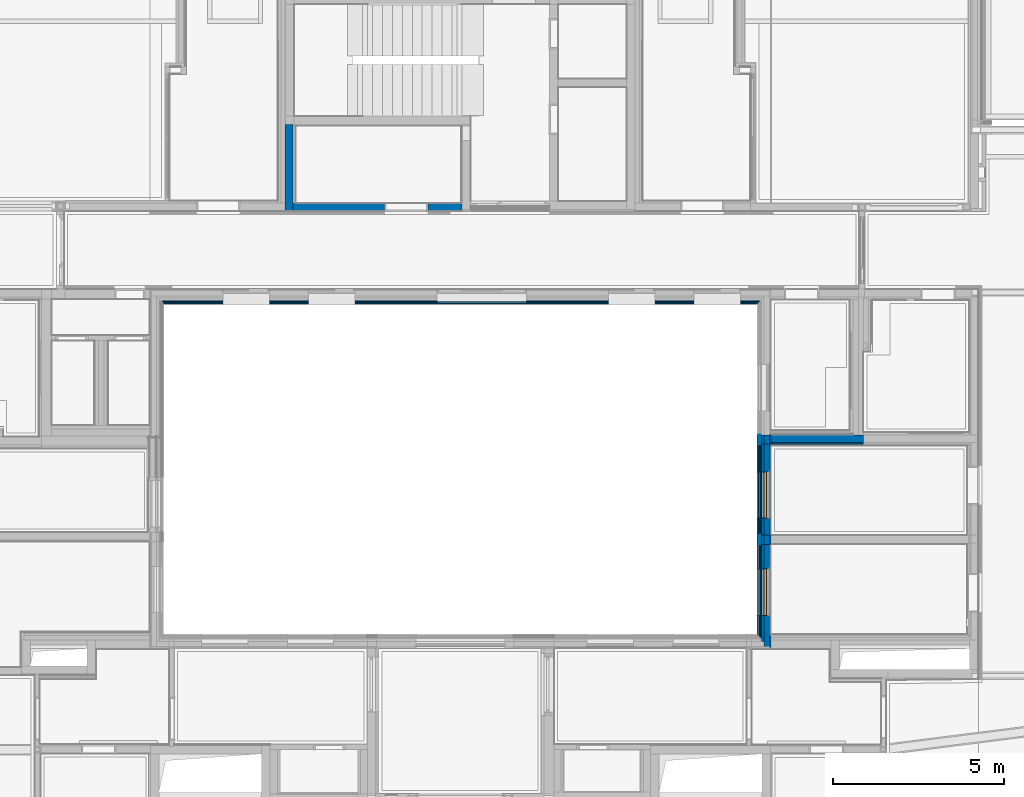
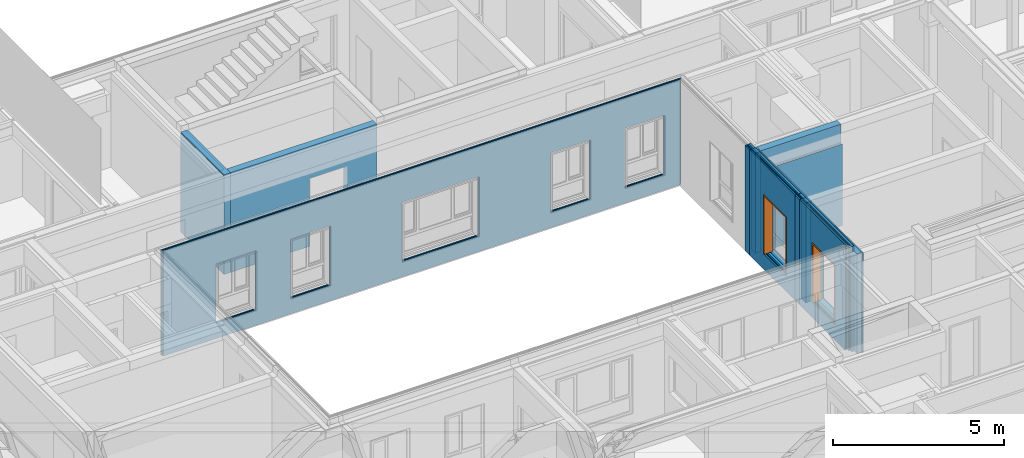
# One storey, part 32 of 222: 35 walls, 2 proxies, 29 openings.
"""IFC4 building model written with IfcOpenShell, lengths in metres."""

from ifc_helpers import new_model, entity, si_unit, converted_unit, derived_unit, frame, frame_2d, origin, origin_with_axes, place, context, subcontext, project, spatial, polyline, rectangle, outline, extrude, clip, bounded_halfspace, faceted_brep, material, element, fill, save


model = new_model("IFC4")

# Units and contexts
model_context = context("Model", 3, precision=1e-05, world=origin())
body_context = subcontext(model_context, "Body", "Model", "MODEL_VIEW")
ifc_project = project(units=[si_unit("LENGTHUNIT", "METRE"), si_unit("AREAUNIT", "SQUARE_METRE"), si_unit("VOLUMEUNIT", "CUBIC_METRE"), si_unit("MASSUNIT", "GRAM", prefix="KILO"), converted_unit("PLANEANGLEUNIT", "DEGREE", entity("IfcPlaneAngleMeasure", 0.0174532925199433), si_unit("PLANEANGLEUNIT", "RADIAN"), dimensions=[0, 0, 0, 0, 0, 0, 0]), derived_unit("THERMALTRANSMITTANCEUNIT", [(si_unit("POWERUNIT", "WATT"), 1), (si_unit("THERMODYNAMICTEMPERATUREUNIT", "KELVIN"), -1), (si_unit("LENGTHUNIT", "METRE"), -2)]), derived_unit("VOLUMETRICFLOWRATEUNIT", [(si_unit("LENGTHUNIT", "METRE"), 3), (converted_unit("TIMEUNIT", "hour", entity("IfcTimeMeasure", 3600.0), si_unit("TIMEUNIT", "SECOND"), dimensions=[0, 0, 1, 0, 0, 0, 0]), -1), (si_unit("LENGTHUNIT", "METRE"), -1)])], contexts=[model_context])

# Site, building, storey
site_placement = place(None, origin())
site = spatial("IfcSite", under=ifc_project, at=site_placement, Name="Psychiatrie Neubau Wunstorf", CompositionType="ELEMENT")
building_placement = place(site_placement, origin())
building = spatial("IfcBuilding", under=site, at=building_placement, Name="Neubau H2 Stationsgebäude", CompositionType="ELEMENT")
storey_placement = place(building_placement, frame((0.0, 0.0, 3.6)))
storey = spatial("IfcBuildingStorey", under=building, at=storey_placement, Name="H2 Ebene +1", CompositionType="ELEMENT", Elevation=3.6)

# Wall, opening
ifc_material_1 = material(Name="WA-LB")
wall_1_placement = place(storey_placement, frame((62.061000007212, 10.1139996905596, 0.0), z_axis=(0.0, 0.0, 1.0), x_axis=(2.4064709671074e-15, 1.0, 0.0)))
wall_1 = element("IfcWall", 1, at=wall_1_placement, inside=storey, material=ifc_material_1, context=body_context, shape_type="SweptSolid", body=[
    extrude(rectangle(XDim=3.02349694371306, YDim=0.036, at=frame_2d((1.51174847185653, 0.018), x_axis=(1.0, 0.0))), origin_with_axes(), (0.0, 0.0, 1.0), 3.55),
])
opening_1_placement = place(wall_1_placement, frame((2.30599694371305, 0.0359999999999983, 0.55), z_axis=(0.0, -1.0, 0.0), x_axis=(0.0, 0.0, 1.0)))
element("IfcOpeningElement", 2, at=opening_1_placement, cuts=wall_1, Name="Fensteröffnung", ObjectType="Opening", context=body_context, shape_type="SweptSolid", body=[
    extrude(outline(polyline([(2.115, 1.35), (2.115, 0.0), (0.0, 0.0), (0.0, 1.35), (2.115, 1.35)])), origin_with_axes(), (0.0, 0.0, 1.0), 0.036),
])

ifc_material_2 = material(Name="WA-DL")
wall_2_placement = place(storey_placement, frame((62.025000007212, 10.1499996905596, 0.0), z_axis=(0.0, 0.0, 1.0), x_axis=(2.43546947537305e-15, 1.0, 0.0)))
wall_2 = element("IfcWall", 3, at=wall_2_placement, inside=storey, material=ifc_material_2, context=body_context, shape_type="SweptSolid", body=[
    extrude(rectangle(XDim=2.98749694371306, YDim=0.16, at=frame_2d((1.49374847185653, 0.08), x_axis=(1.0, 0.0))), origin_with_axes(), (0.0, 0.0, 1.0), 3.55),
])
opening_2_placement = place(wall_2_placement, frame((2.26999694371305, 0.159999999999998, 0.55), z_axis=(2.8421709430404e-15, -1.0, 0.0), x_axis=(0.0, 0.0, 1.0)))
element("IfcOpeningElement", 4, at=opening_2_placement, cuts=wall_2, Name="Fensteröffnung", ObjectType="Opening", context=body_context, shape_type="SweptSolid", body=[
    extrude(outline(polyline([(2.115, 1.35), (2.115, 0.0), (0.0, 0.0), (0.0, 1.35), (2.115, 1.35)])), origin_with_axes(), (0.0, 0.0, 1.0), 0.16),
])

ifc_material_3 = material(Name="WA-DL")
wall_3_placement = place(storey_placement, frame((61.865000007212, 10.3099996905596, 0.0), z_axis=(0.0, 0.0, 1.0), x_axis=(2.5732857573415e-15, 1.0, 0.0)))
wall_3 = element("IfcWall", 5, at=wall_3_placement, inside=storey, material=ifc_material_3, context=body_context, shape_type="SweptSolid", body=[
    extrude(rectangle(XDim=2.82749694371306, YDim=0.08, at=frame_2d((1.41374847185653, 0.04), x_axis=(1.0, 0.0))), origin_with_axes(), (0.0, 0.0, 1.0), 3.75),
])
opening_3_placement = place(wall_3_placement, frame((2.10999694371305, 0.0799999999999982, 0.55), z_axis=(0.0, -1.0, 0.0), x_axis=(0.0, 0.0, 1.0)))
element("IfcOpeningElement", 6, at=opening_3_placement, cuts=wall_3, Name="Fensteröffnung", ObjectType="Opening", context=body_context, shape_type="SweptSolid", body=[
    extrude(outline(polyline([(2.115, 1.35), (2.115, 0.0), (0.0, 0.0), (0.0, 1.35), (2.115, 1.35)])), origin_with_axes(), (0.0, 0.0, 1.0), 0.08),
])

ifc_material_4 = material(Name="WA-LB")
wall_4_placement = place(storey_placement, frame((61.785000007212, 10.3899996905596, 0.0), z_axis=(0.0, 0.0, 1.0), x_axis=(2.64821317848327e-15, 1.0, 0.0)))
wall_4 = element("IfcWall", 7, at=wall_4_placement, inside=storey, material=ifc_material_4, context=body_context, shape_type="SweptSolid", body=[
    extrude(rectangle(XDim=2.74749694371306, YDim=0.036, at=frame_2d((1.37374847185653, 0.018), x_axis=(1.0, 0.0))), origin_with_axes(), (0.0, 0.0, 1.0), 3.75),
])
opening_4_placement = place(wall_4_placement, frame((2.02999694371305, 0.0359999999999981, 0.55), z_axis=(0.0, -1.0, 0.0), x_axis=(0.0, 0.0, 1.0)))
element("IfcOpeningElement", 8, at=opening_4_placement, cuts=wall_4, Name="Fensteröffnung", ObjectType="Opening", context=body_context, shape_type="SweptSolid", body=[
    extrude(outline(polyline([(2.115, 1.35), (2.115, 0.0), (0.0, 0.0), (0.0, 1.35), (2.115, 1.35)])), origin_with_axes(), (0.0, 0.0, 1.0), 0.036),
])

ifc_material_5 = material(Name="WA-KL")
wall_5_placement = place(storey_placement, frame((61.749000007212, 10.4259996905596, 0.0), z_axis=(0.0, 0.0, 1.0), x_axis=(2.68337297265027e-15, 1.0, 0.0)))
wall_5 = element("IfcWall", 9, at=wall_5_placement, inside=storey, material=ifc_material_5, context=body_context, shape_type="SweptSolid", body=[
    extrude(rectangle(XDim=2.71149694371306, YDim=0.024, at=frame_2d((1.35574847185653, 0.012), x_axis=(1.0, 0.0))), origin_with_axes(), (0.0, 0.0, 1.0), 3.75),
])
opening_5_placement = place(wall_5_placement, frame((1.99399694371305, 0.0239999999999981, 0.55), z_axis=(0.0, -1.0, 0.0), x_axis=(0.0, 0.0, 1.0)))
element("IfcOpeningElement", 10, at=opening_5_placement, cuts=wall_5, Name="Fensteröffnung", ObjectType="Opening", context=body_context, shape_type="SweptSolid", body=[
    extrude(outline(polyline([(2.115, 1.35), (2.115, 0.0), (0.0, 0.0), (0.0, 1.35), (2.115, 1.35)])), origin_with_axes(), (0.0, 0.0, 1.0), 0.024),
])

# Wall, opening, proxy
ifc_material_6 = material(Name="WA-HS")
wall_6_placement = place(storey_placement, frame((61.701000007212, 10.4739996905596, 0.0), z_axis=(0.0, 0.0, 1.0), x_axis=(2.73173116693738e-15, 1.0, 0.0)))
wall_6 = element("IfcWall", 11, at=wall_6_placement, inside=storey, material=ifc_material_6, context=body_context, shape_type="SweptSolid", body=[
    extrude(rectangle(XDim=2.66349694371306, YDim=0.042, at=frame_2d((1.33174847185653, 0.021), x_axis=(1.0, 0.0))), origin_with_axes(), (0.0, 0.0, 1.0), 3.75),
])
opening_6_placement = place(wall_6_placement, frame((1.94599694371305, 0.041999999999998, 0.55), z_axis=(5.41365893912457e-15, -1.0, 0.0), x_axis=(0.0, 0.0, 1.0)))
opening_6 = element("IfcOpeningElement", 12, at=opening_6_placement, cuts=wall_6, Name="Fensteröffnung", ObjectType="Opening", context=body_context, shape_type="SweptSolid", body=[
    extrude(outline(polyline([(2.115, 1.35), (2.115, 0.0), (0.0, 0.0), (0.0, 1.35), (2.115, 1.35)])), origin_with_axes(), (0.0, 0.0, 1.0), 0.042),
])
ifc_material_7 = material(Name="WA-HS")
proxy_1_placement = place(opening_6_placement, frame((0.0, 1.35, 0.0)))
proxy_1 = element("IfcBuildingElementProxy", 13, at=proxy_1_placement, inside=storey, material=ifc_material_7, context=body_context, shape_type="Brep", body=[
    faceted_brep([(0.0, -1.35, 0.0), (0.0, -1.35, 0.275000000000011), (2.115, -1.35, 0.275000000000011), (2.115, -1.35, 0.0), (0.0, -1.3, 0.275000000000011), (0.0, -1.3, 0.0), (2.065, -1.3, 0.0), (2.065, -1.3, 0.275000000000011), (2.115, 0.0, 0.275), (2.115, 0.0, 0.0), (0.0, 0.0, 0.0), (0.0, -0.05, 0.0), (2.065, -0.05, 0.0), (2.065, -0.0499999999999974, 0.275), (0.0, -0.0499999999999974, 0.275), (0.0, 0.0, 0.275)], [[[0, 1, 2, 3]], [[4, 5, 6, 7]], [[0, 5, 4, 1]], [[3, 2, 8, 9]], [[6, 5, 0, 3, 9, 10, 11, 12]], [[13, 14, 15, 8, 2, 1, 4, 7]], [[7, 6, 12, 13]], [[11, 14, 13, 12]], [[15, 10, 9, 8]], [[11, 10, 15, 14]]], orient=[[False], [False], [False], [False], [False], [False], [False], [False], [False], [False]]),
])
fill(opening_6, proxy_1)

# Wall, opening
ifc_material_8 = material(Name="WA-LB")
wall_7_placement = place(storey_placement, frame((62.0610000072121, 13.4094966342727, 0.0), z_axis=(0.0, 0.0, 1.0), x_axis=(0.0, 1.0, 0.0)))
wall_7 = element("IfcWall", 14, at=wall_7_placement, inside=storey, material=ifc_material_8, context=body_context, shape_type="SweptSolid", body=[
    extrude(rectangle(XDim=2.65450336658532, YDim=0.036, at=frame_2d((1.32725168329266, 0.018), x_axis=(1.0, 0.0))), origin_with_axes(), (0.0, 0.0, 1.0), 3.55),
])
opening_7_placement = place(wall_7_placement, frame((1.84550336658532, 0.036, 0.55), z_axis=(0.0, -1.0, 0.0), x_axis=(0.0, 0.0, 1.0)))
element("IfcOpeningElement", 15, at=opening_7_placement, cuts=wall_7, Name="Fensteröffnung", ObjectType="Opening", context=body_context, shape_type="SweptSolid", body=[
    extrude(outline(polyline([(2.115, 1.35), (2.115, 0.0), (0.0, 0.0), (0.0, 1.35), (2.115, 1.35)])), origin_with_axes(), (0.0, 0.0, 1.0), 0.036),
])

ifc_material_9 = material(Name="WA-DL")
wall_8_placement = place(storey_placement, frame((62.0250000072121, 13.4094966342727, 0.0), z_axis=(0.0, 0.0, 1.0), x_axis=(0.0, 1.0, 0.0)))
wall_8 = element("IfcWall", 16, at=wall_8_placement, inside=storey, material=ifc_material_9, context=body_context, shape_type="SweptSolid", body=[
    extrude(rectangle(XDim=2.65450336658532, YDim=0.16, at=frame_2d((1.32725168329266, 0.08), x_axis=(1.0, 0.0))), origin_with_axes(), (0.0, 0.0, 1.0), 3.55),
])
opening_8_placement = place(wall_8_placement, frame((1.84550336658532, 0.16, 0.55), z_axis=(0.0, -1.0, 0.0), x_axis=(0.0, 0.0, 1.0)))
element("IfcOpeningElement", 17, at=opening_8_placement, cuts=wall_8, Name="Fensteröffnung", ObjectType="Opening", context=body_context, shape_type="SweptSolid", body=[
    extrude(outline(polyline([(2.115, 1.35), (2.115, 0.0), (0.0, 0.0), (0.0, 1.35), (2.115, 1.35)])), origin_with_axes(), (0.0, 0.0, 1.0), 0.16),
])

ifc_material_10 = material(Name="WA-DL")
wall_9_placement = place(storey_placement, frame((61.8650000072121, 13.4094966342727, 0.0), z_axis=(0.0, 0.0, 1.0), x_axis=(0.0, 1.0, 0.0)))
wall_9 = element("IfcWall", 18, at=wall_9_placement, inside=storey, material=ifc_material_10, context=body_context, shape_type="SweptSolid", body=[
    extrude(rectangle(XDim=2.65450336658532, YDim=0.08, at=frame_2d((1.32725168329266, 0.04), x_axis=(1.0, 0.0))), origin_with_axes(), (0.0, 0.0, 1.0), 3.75),
])
opening_9_placement = place(wall_9_placement, frame((1.84550336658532, 0.08, 0.55), z_axis=(0.0, -1.0, 0.0), x_axis=(0.0, 0.0, 1.0)))
element("IfcOpeningElement", 19, at=opening_9_placement, cuts=wall_9, Name="Fensteröffnung", ObjectType="Opening", context=body_context, shape_type="SweptSolid", body=[
    extrude(outline(polyline([(2.115, 1.35), (2.115, 0.0), (0.0, 0.0), (0.0, 1.35), (2.115, 1.35)])), origin_with_axes(), (0.0, 0.0, 1.0), 0.08),
])

ifc_material_11 = material(Name="WA-LB")
wall_10_placement = place(storey_placement, frame((61.7850000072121, 13.4094966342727, 0.0), z_axis=(0.0, 0.0, 1.0), x_axis=(0.0, 1.0, 0.0)))
wall_10 = element("IfcWall", 20, at=wall_10_placement, inside=storey, material=ifc_material_11, context=body_context, shape_type="SweptSolid", body=[
    extrude(rectangle(XDim=2.65450336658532, YDim=0.036, at=frame_2d((1.32725168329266, 0.018), x_axis=(1.0, 0.0))), origin_with_axes(), (0.0, 0.0, 1.0), 3.75),
])
opening_10_placement = place(wall_10_placement, frame((1.84550336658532, 0.036, 0.55), z_axis=(0.0, -1.0, 0.0), x_axis=(0.0, 0.0, 1.0)))
element("IfcOpeningElement", 21, at=opening_10_placement, cuts=wall_10, Name="Fensteröffnung", ObjectType="Opening", context=body_context, shape_type="SweptSolid", body=[
    extrude(outline(polyline([(2.115, 1.35), (2.115, 0.0), (0.0, 0.0), (0.0, 1.35), (2.115, 1.35)])), origin_with_axes(), (0.0, 0.0, 1.0), 0.036),
])

ifc_material_12 = material(Name="WA-KL")
wall_11_placement = place(storey_placement, frame((61.7490000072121, 13.4094966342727, 0.0), z_axis=(0.0, 0.0, 1.0), x_axis=(0.0, 1.0, 0.0)))
wall_11 = element("IfcWall", 22, at=wall_11_placement, inside=storey, material=ifc_material_12, context=body_context, shape_type="SweptSolid", body=[
    extrude(rectangle(XDim=2.65450336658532, YDim=0.024, at=frame_2d((1.32725168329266, 0.012), x_axis=(1.0, 0.0))), origin_with_axes(), (0.0, 0.0, 1.0), 3.75),
])
opening_11_placement = place(wall_11_placement, frame((1.84550336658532, 0.024, 0.55), z_axis=(0.0, -1.0, 0.0), x_axis=(0.0, 0.0, 1.0)))
element("IfcOpeningElement", 23, at=opening_11_placement, cuts=wall_11, Name="Fensteröffnung", ObjectType="Opening", context=body_context, shape_type="SweptSolid", body=[
    extrude(outline(polyline([(2.115, 1.35), (2.115, 0.0), (0.0, 0.0), (0.0, 1.35), (2.115, 1.35)])), origin_with_axes(), (0.0, 0.0, 1.0), 0.024),
])

ifc_material_13 = material(Name="WA-TL")
wall_12_placement = place(storey_placement, frame((61.7250000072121, 13.4094966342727, 0.0), z_axis=(0.0, 0.0, 1.0), x_axis=(0.0, 1.0, 0.0)))
wall_12 = element("IfcWall", 24, at=wall_12_placement, inside=storey, material=ifc_material_13, context=body_context, shape_type="SweptSolid", body=[
    extrude(rectangle(XDim=2.65450336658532, YDim=0.024, at=frame_2d((1.32725168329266, 0.012), x_axis=(1.0, 0.0))), origin_with_axes(), (0.0, 0.0, 1.0), 3.75),
])
opening_12_placement = place(wall_12_placement, frame((1.84550336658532, 0.024, 0.55), z_axis=(0.0, -1.0, 0.0), x_axis=(0.0, 0.0, 1.0)))
element("IfcOpeningElement", 25, at=opening_12_placement, cuts=wall_12, Name="Fensteröffnung", ObjectType="Opening", context=body_context, shape_type="SweptSolid", body=[
    extrude(outline(polyline([(2.115, 1.35), (2.115, 0.0), (0.0, 0.0), (0.0, 1.35), (2.115, 1.35)])), origin_with_axes(), (0.0, 0.0, 1.0), 0.024),
])

# Wall, opening, proxy
ifc_material_14 = material(Name="WA-HS")
wall_13_placement = place(storey_placement, frame((61.7010000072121, 13.4094966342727, 0.0), z_axis=(0.0, 0.0, 1.0), x_axis=(0.0, 1.0, 0.0)))
wall_13 = element("IfcWall", 26, at=wall_13_placement, inside=storey, material=ifc_material_14, context=body_context, shape_type="SweptSolid", body=[
    extrude(rectangle(XDim=2.65450336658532, YDim=0.042, at=frame_2d((1.32725168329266, 0.021), x_axis=(1.0, 0.0))), origin_with_axes(), (0.0, 0.0, 1.0), 3.75),
])
opening_13_placement = place(wall_13_placement, frame((1.84550336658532, 0.042, 0.55), z_axis=(0.0, -1.0, 0.0), x_axis=(0.0, 0.0, 1.0)))
opening_13 = element("IfcOpeningElement", 27, at=opening_13_placement, cuts=wall_13, Name="Fensteröffnung", ObjectType="Opening", context=body_context, shape_type="SweptSolid", body=[
    extrude(outline(polyline([(2.115, 1.35), (2.115, 0.0), (0.0, 0.0), (0.0, 1.35), (2.115, 1.35)])), origin_with_axes(), (0.0, 0.0, 1.0), 0.042),
])
ifc_material_15 = material(Name="WA-HS")
proxy_2_placement = place(opening_13_placement, frame((0.0, 1.35, 0.0)))
proxy_2 = element("IfcBuildingElementProxy", 28, at=proxy_2_placement, inside=storey, material=ifc_material_15, context=body_context, shape_type="Brep", body=[
    faceted_brep([(0.0, -1.35, 0.0), (0.0, -1.35, 0.275), (2.115, -1.35, 0.275), (2.115, -1.35, 0.0), (0.0, -1.3, 0.275), (0.0, -1.3, 0.0), (2.065, -1.3, 0.0), (2.065, -1.3, 0.275), (2.115, 0.0, 0.275), (2.115, 0.0, 0.0), (0.0, 0.0, 0.0), (0.0, -0.05, 0.0), (2.065, -0.05, 0.0), (2.065, -0.05, 0.275), (0.0, -0.05, 0.275), (0.0, 0.0, 0.275)], [[[0, 1, 2, 3]], [[4, 5, 6, 7]], [[0, 5, 4, 1]], [[3, 2, 8, 9]], [[6, 5, 0, 3, 9, 10, 11, 12]], [[13, 14, 15, 8, 2, 1, 4, 7]], [[7, 6, 12, 13]], [[11, 14, 13, 12]], [[15, 10, 9, 8]], [[11, 10, 15, 14]]], orient=[[False], [False], [False], [False], [False], [False], [False], [False], [False], [False]]),
])
fill(opening_13, proxy_2)

# Walls
ifc_material_16 = material(Name="WA-LB")
wall_14_placement = place(storey_placement, frame((62.0610000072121, 16.064000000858, 0.0), z_axis=(0.0, 0.0, 1.0), x_axis=(0.0, 1.0, 0.0)))
element("IfcWall", 29, at=wall_14_placement, inside=storey, material=ifc_material_16, Name="2x Gipsfaserplatte", context=body_context, shape_type="SweptSolid", body=[
    extrude(rectangle(XDim=0.272, YDim=0.036, at=frame_2d((0.136, 0.018), x_axis=(1.0, 0.0))), origin_with_axes(), (0.0, 0.0, 1.0), 3.55),
])
ifc_material_17 = material(Name="WA-DL")
wall_15_placement = place(storey_placement, frame((62.0250000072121, 16.064000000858, 0.0), z_axis=(0.0, 0.0, 1.0), x_axis=(0.0, 1.0, 0.0)))
element("IfcWall", 30, at=wall_15_placement, inside=storey, material=ifc_material_17, Name="Holzständer + Zwischendämmung", context=body_context, shape_type="SweptSolid", body=[
    extrude(rectangle(XDim=0.272, YDim=0.16, at=frame_2d((0.136, 0.08), x_axis=(1.0, 0.0))), origin_with_axes(), (0.0, 0.0, 1.0), 3.55),
])
ifc_material_18 = material(Name="WA-DL")
wall_16_placement = place(storey_placement, frame((61.8650000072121, 16.064000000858, 0.0), z_axis=(0.0, 0.0, 1.0), x_axis=(0.0, 1.0, 0.0)))
element("IfcWall", 31, at=wall_16_placement, inside=storey, material=ifc_material_18, Name="Staffel + Zwischendämmung", context=body_context, shape_type="SweptSolid", body=[
    extrude(rectangle(XDim=0.272, YDim=0.08, at=frame_2d((0.136, 0.04), x_axis=(1.0, 0.0))), origin_with_axes(), (0.0, 0.0, 1.0), 3.75),
])
ifc_material_19 = material(Name="WA-LB")
wall_17_placement = place(storey_placement, frame((61.7850000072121, 16.064000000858, 0.0), z_axis=(0.0, 0.0, 1.0), x_axis=(0.0, 1.0, 0.0)))
element("IfcWall", 32, at=wall_17_placement, inside=storey, material=ifc_material_19, context=body_context, shape_type="SweptSolid", body=[
    extrude(rectangle(XDim=0.272, YDim=0.036, at=frame_2d((0.136, 0.018), x_axis=(1.0, 0.0))), origin_with_axes(), (0.0, 0.0, 1.0), 3.75),
])
ifc_material_20 = material(Name="WA-KL")
wall_18_placement = place(storey_placement, frame((61.7490000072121, 16.064000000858, 0.0), z_axis=(0.0, 0.0, 1.0), x_axis=(0.0, 1.0, 0.0)))
element("IfcWall", 33, at=wall_18_placement, inside=storey, material=ifc_material_20, Name="Konterlattung", context=body_context, shape_type="SweptSolid", body=[
    extrude(rectangle(XDim=0.272, YDim=0.024, at=frame_2d((0.136, 0.012), x_axis=(1.0, 0.0))), origin_with_axes(), (0.0, 0.0, 1.0), 3.75),
])
ifc_material_21 = material(Name="WA-TL")
wall_19_placement = place(storey_placement, frame((61.7250000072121, 16.064000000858, 0.0), z_axis=(0.0, 0.0, 1.0), x_axis=(0.0, 1.0, 0.0)))
element("IfcWall", 34, at=wall_19_placement, inside=storey, material=ifc_material_21, Name="Traglattung", context=body_context, shape_type="SweptSolid", body=[
    extrude(rectangle(XDim=0.272, YDim=0.024, at=frame_2d((0.136, 0.012), x_axis=(1.0, 0.0))), origin_with_axes(), (0.0, 0.0, 1.0), 3.75),
])
ifc_material_22 = material(Name="WA-HS")
wall_20_placement = place(storey_placement, frame((61.7010000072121, 16.064000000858, 0.0), z_axis=(0.0, 0.0, 1.0), x_axis=(0.0, 1.0, 0.0)))
element("IfcWall", 35, at=wall_20_placement, inside=storey, material=ifc_material_22, Name="Holzschindel", context=body_context, shape_type="SweptSolid", body=[
    extrude(rectangle(XDim=0.272, YDim=0.042, at=frame_2d((0.136, 0.021), x_axis=(1.0, 0.0))), origin_with_axes(), (0.0, 0.0, 1.0), 3.75),
])
ifc_material_23 = material(Name="WA-LB")
wall_21_placement = place(storey_placement, frame((62.0610000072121, 13.1374966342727, 0.0), z_axis=(0.0, 0.0, 1.0), x_axis=(0.0, 1.0, 0.0)))
element("IfcWall", 36, at=wall_21_placement, inside=storey, material=ifc_material_23, Name="2x Gipsfaserplatte", context=body_context, shape_type="SweptSolid", body=[
    extrude(rectangle(XDim=0.272, YDim=0.036, at=frame_2d((0.136, 0.018), x_axis=(1.0, 0.0))), origin_with_axes(), (0.0, 0.0, 1.0), 3.55),
])
ifc_material_24 = material(Name="WA-DL")
wall_22_placement = place(storey_placement, frame((62.0250000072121, 13.1374966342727, 0.0), z_axis=(0.0, 0.0, 1.0), x_axis=(0.0, 1.0, 0.0)))
element("IfcWall", 37, at=wall_22_placement, inside=storey, material=ifc_material_24, Name="Holzständer + Zwischendämmung", context=body_context, shape_type="SweptSolid", body=[
    extrude(rectangle(XDim=0.272, YDim=0.16, at=frame_2d((0.136, 0.08), x_axis=(1.0, 0.0))), origin_with_axes(), (0.0, 0.0, 1.0), 3.55),
])
ifc_material_25 = material(Name="WA-DL")
wall_23_placement = place(storey_placement, frame((61.8650000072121, 13.1374966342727, 0.0), z_axis=(0.0, 0.0, 1.0), x_axis=(0.0, 1.0, 0.0)))
element("IfcWall", 38, at=wall_23_placement, inside=storey, material=ifc_material_25, Name="Staffel + Zwischendämmung", context=body_context, shape_type="SweptSolid", body=[
    extrude(rectangle(XDim=0.272, YDim=0.08, at=frame_2d((0.136, 0.04), x_axis=(1.0, 0.0))), origin_with_axes(), (0.0, 0.0, 1.0), 3.75),
])
ifc_material_26 = material(Name="WA-LB")
wall_24_placement = place(storey_placement, frame((61.7850000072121, 13.1374966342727, 0.0), z_axis=(0.0, 0.0, 1.0), x_axis=(0.0, 1.0, 0.0)))
element("IfcWall", 39, at=wall_24_placement, inside=storey, material=ifc_material_26, context=body_context, shape_type="SweptSolid", body=[
    extrude(rectangle(XDim=0.272, YDim=0.036, at=frame_2d((0.136, 0.018), x_axis=(1.0, 0.0))), origin_with_axes(), (0.0, 0.0, 1.0), 3.75),
])
ifc_material_27 = material(Name="WA-KL")
wall_25_placement = place(storey_placement, frame((61.7490000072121, 13.1374966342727, 0.0), z_axis=(0.0, 0.0, 1.0), x_axis=(0.0, 1.0, 0.0)))
element("IfcWall", 40, at=wall_25_placement, inside=storey, material=ifc_material_27, Name="Konterlattung", context=body_context, shape_type="SweptSolid", body=[
    extrude(rectangle(XDim=0.272, YDim=0.024, at=frame_2d((0.136, 0.012), x_axis=(1.0, 0.0))), origin_with_axes(), (0.0, 0.0, 1.0), 3.75),
])
ifc_material_28 = material(Name="WA-TL")
wall_26_placement = place(storey_placement, frame((61.7250000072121, 13.1374966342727, 0.0), z_axis=(0.0, 0.0, 1.0), x_axis=(0.0, 1.0, 0.0)))
element("IfcWall", 41, at=wall_26_placement, inside=storey, material=ifc_material_28, Name="Traglattung", context=body_context, shape_type="SweptSolid", body=[
    extrude(rectangle(XDim=0.272, YDim=0.024, at=frame_2d((0.136, 0.012), x_axis=(1.0, 0.0))), origin_with_axes(), (0.0, 0.0, 1.0), 3.75),
])
ifc_material_29 = material(Name="WA-HS")
wall_27_placement = place(storey_placement, frame((61.7010000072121, 13.1374966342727, 0.0), z_axis=(0.0, 0.0, 1.0), x_axis=(0.0, 1.0, 0.0)))
element("IfcWall", 42, at=wall_27_placement, inside=storey, material=ifc_material_29, Name="Holzschindel", context=body_context, shape_type="SweptSolid", body=[
    extrude(rectangle(XDim=0.272, YDim=0.042, at=frame_2d((0.136, 0.021), x_axis=(1.0, 0.0))), origin_with_axes(), (0.0, 0.0, 1.0), 3.75),
])

# Wall, openings
ifc_material_30 = material(Name="WA-LB")
wall_28_placement = place(storey_placement, frame((61.7490000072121, 20.2499980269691, 0.0), z_axis=(0.0, 0.0, 1.0), x_axis=(-1.0, 0.0, 0.0)))
wall_28 = element("IfcWall", 43, at=wall_28_placement, inside=storey, material=ifc_material_30, context=body_context, shape_type="SweptSolid", body=[
    extrude(rectangle(XDim=17.4980000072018, YDim=0.036, at=frame_2d((8.74900000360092, 0.018), x_axis=(1.0, 0.0))), origin_with_axes(), (0.0, 0.0, 1.0), 3.75),
])
opening_14_placement = place(wall_28_placement, frame((15.6764000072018, 0.036, 0.55), z_axis=(0.0, -1.0, 0.0), x_axis=(0.0, 0.0, 1.0)))
element("IfcOpeningElement", 44, at=opening_14_placement, cuts=wall_28, Name="Fensteröffnung", ObjectType="Opening", context=body_context, shape_type="SweptSolid", body=[
    extrude(outline(polyline([(2.115, 1.35), (2.115, 0.0), (0.0, 0.0), (0.0, 1.35), (2.115, 1.35)])), origin_with_axes(), (0.0, 0.0, 1.0), 0.036),
])
opening_15_placement = place(wall_28_placement, frame((13.1764000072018, 0.036, 0.55), z_axis=(0.0, -1.0, 0.0), x_axis=(0.0, 0.0, 1.0)))
element("IfcOpeningElement", 45, at=opening_15_placement, cuts=wall_28, Name="Fensteröffnung", ObjectType="Opening", context=body_context, shape_type="SweptSolid", body=[
    extrude(outline(polyline([(2.115, 1.35), (2.115, 0.0), (0.0, 0.0), (0.0, 1.35), (2.115, 1.35)])), origin_with_axes(), (0.0, 0.0, 1.0), 0.036),
])
opening_16_placement = place(wall_28_placement, frame((4.42640000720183, 0.036, 0.55), z_axis=(0.0, -1.0, 0.0), x_axis=(0.0, 0.0, 1.0)))
element("IfcOpeningElement", 46, at=opening_16_placement, cuts=wall_28, Name="Fensteröffnung", ObjectType="Opening", context=body_context, shape_type="SweptSolid", body=[
    extrude(outline(polyline([(2.115, 1.35), (2.115, 0.0), (0.0, 0.0), (0.0, 1.35), (2.115, 1.35)])), origin_with_axes(), (0.0, 0.0, 1.0), 0.036),
])
opening_17_placement = place(wall_28_placement, frame((1.92640000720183, 0.036, 0.55), z_axis=(0.0, -1.0, 0.0), x_axis=(0.0, 0.0, 1.0)))
element("IfcOpeningElement", 47, at=opening_17_placement, cuts=wall_28, Name="Fensteröffnung", ObjectType="Opening", context=body_context, shape_type="SweptSolid", body=[
    extrude(outline(polyline([(2.115, 1.35), (2.115, 0.0), (0.0, 0.0), (0.0, 1.35), (2.115, 1.35)])), origin_with_axes(), (0.0, 0.0, 1.0), 0.036),
])
opening_18_placement = place(wall_28_placement, frame((9.42640000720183, 0.036, 0.55), z_axis=(0.0, -1.0, 0.0), x_axis=(0.0, 0.0, 1.0)))
element("IfcOpeningElement", 48, at=opening_18_placement, cuts=wall_28, Name="Fensteröffnung", ObjectType="Opening", context=body_context, shape_type="SweptSolid", body=[
    extrude(outline(polyline([(2.115, 2.6), (2.115, 0.0), (0.0, 0.0), (0.0, 2.6), (2.115, 2.6)])), origin_with_axes(), (0.0, 0.0, 1.0), 0.036),
])

ifc_material_31 = material(Name="WA-KL")
wall_29_placement = place(storey_placement, frame((61.7250000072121, 20.2139980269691, 0.0), z_axis=(0.0, 0.0, 1.0), x_axis=(-1.0, 0.0, 0.0)))
wall_29 = element("IfcWall", 49, at=wall_29_placement, inside=storey, material=ifc_material_31, context=body_context, shape_type="SweptSolid", body=[
    extrude(rectangle(XDim=17.4500000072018, YDim=0.024, at=frame_2d((8.72500000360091, 0.012), x_axis=(1.0, 0.0))), origin_with_axes(), (0.0, 0.0, 1.0), 3.75),
])
opening_19_placement = place(wall_29_placement, frame((15.6524000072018, 0.024, 0.55), z_axis=(0.0, -1.0, 0.0), x_axis=(0.0, 0.0, 1.0)))
element("IfcOpeningElement", 50, at=opening_19_placement, cuts=wall_29, Name="Fensteröffnung", ObjectType="Opening", context=body_context, shape_type="SweptSolid", body=[
    extrude(outline(polyline([(2.115, 1.35), (2.115, 0.0), (0.0, 0.0), (0.0, 1.35), (2.115, 1.35)])), origin_with_axes(), (0.0, 0.0, 1.0), 0.024),
])
opening_20_placement = place(wall_29_placement, frame((13.1524000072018, 0.024, 0.55), z_axis=(0.0, -1.0, 0.0), x_axis=(0.0, 0.0, 1.0)))
element("IfcOpeningElement", 51, at=opening_20_placement, cuts=wall_29, Name="Fensteröffnung", ObjectType="Opening", context=body_context, shape_type="SweptSolid", body=[
    extrude(outline(polyline([(2.115, 1.35), (2.115, 0.0), (0.0, 0.0), (0.0, 1.35), (2.115, 1.35)])), origin_with_axes(), (0.0, 0.0, 1.0), 0.024),
])
opening_21_placement = place(wall_29_placement, frame((4.40240000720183, 0.024, 0.55), z_axis=(0.0, -1.0, 0.0), x_axis=(0.0, 0.0, 1.0)))
element("IfcOpeningElement", 52, at=opening_21_placement, cuts=wall_29, Name="Fensteröffnung", ObjectType="Opening", context=body_context, shape_type="SweptSolid", body=[
    extrude(outline(polyline([(2.115, 1.35), (2.115, 0.0), (0.0, 0.0), (0.0, 1.35), (2.115, 1.35)])), origin_with_axes(), (0.0, 0.0, 1.0), 0.024),
])
opening_22_placement = place(wall_29_placement, frame((1.90240000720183, 0.024, 0.55), z_axis=(0.0, -1.0, 0.0), x_axis=(0.0, 0.0, 1.0)))
element("IfcOpeningElement", 53, at=opening_22_placement, cuts=wall_29, Name="Fensteröffnung", ObjectType="Opening", context=body_context, shape_type="SweptSolid", body=[
    extrude(outline(polyline([(2.115, 1.35), (2.115, 0.0), (0.0, 0.0), (0.0, 1.35), (2.115, 1.35)])), origin_with_axes(), (0.0, 0.0, 1.0), 0.024),
])
opening_23_placement = place(wall_29_placement, frame((9.40240000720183, 0.024, 0.55), z_axis=(0.0, -1.0, 0.0), x_axis=(0.0, 0.0, 1.0)))
element("IfcOpeningElement", 54, at=opening_23_placement, cuts=wall_29, Name="Fensteröffnung", ObjectType="Opening", context=body_context, shape_type="SweptSolid", body=[
    extrude(outline(polyline([(2.115, 2.6), (2.115, 0.0), (0.0, 0.0), (0.0, 2.6), (2.115, 2.6)])), origin_with_axes(), (0.0, 0.0, 1.0), 0.024),
])

ifc_material_32 = material(Name="WA-TL")
wall_30_placement = place(storey_placement, frame((61.7010000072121, 20.1899980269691, 0.0), z_axis=(0.0, 0.0, 1.0), x_axis=(-1.0, 0.0, 0.0)))
wall_30 = element("IfcWall", 55, at=wall_30_placement, inside=storey, material=ifc_material_32, context=body_context, shape_type="SweptSolid", body=[
    extrude(rectangle(XDim=17.4020000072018, YDim=0.024, at=frame_2d((8.70100000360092, 0.012), x_axis=(1.0, 0.0))), origin_with_axes(), (0.0, 0.0, 1.0), 3.75),
])
opening_24_placement = place(wall_30_placement, frame((15.6284000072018, 0.024, 0.55), z_axis=(0.0, -1.0, 0.0), x_axis=(0.0, 0.0, 1.0)))
element("IfcOpeningElement", 56, at=opening_24_placement, cuts=wall_30, Name="Fensteröffnung", ObjectType="Opening", context=body_context, shape_type="SweptSolid", body=[
    extrude(outline(polyline([(2.115, 1.35), (2.115, 0.0), (0.0, 0.0), (0.0, 1.35), (2.115, 1.35)])), origin_with_axes(), (0.0, 0.0, 1.0), 0.024),
])
opening_25_placement = place(wall_30_placement, frame((13.1284000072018, 0.024, 0.55), z_axis=(0.0, -1.0, 0.0), x_axis=(0.0, 0.0, 1.0)))
element("IfcOpeningElement", 57, at=opening_25_placement, cuts=wall_30, Name="Fensteröffnung", ObjectType="Opening", context=body_context, shape_type="SweptSolid", body=[
    extrude(outline(polyline([(2.115, 1.35), (2.115, 0.0), (0.0, 0.0), (0.0, 1.35), (2.115, 1.35)])), origin_with_axes(), (0.0, 0.0, 1.0), 0.024),
])
opening_26_placement = place(wall_30_placement, frame((4.37840000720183, 0.024, 0.55), z_axis=(0.0, -1.0, 0.0), x_axis=(0.0, 0.0, 1.0)))
element("IfcOpeningElement", 58, at=opening_26_placement, cuts=wall_30, Name="Fensteröffnung", ObjectType="Opening", context=body_context, shape_type="SweptSolid", body=[
    extrude(outline(polyline([(2.115, 1.35), (2.115, 0.0), (0.0, 0.0), (0.0, 1.35), (2.115, 1.35)])), origin_with_axes(), (0.0, 0.0, 1.0), 0.024),
])
opening_27_placement = place(wall_30_placement, frame((1.87840000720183, 0.024, 0.55), z_axis=(0.0, -1.0, 0.0), x_axis=(0.0, 0.0, 1.0)))
element("IfcOpeningElement", 59, at=opening_27_placement, cuts=wall_30, Name="Fensteröffnung", ObjectType="Opening", context=body_context, shape_type="SweptSolid", body=[
    extrude(outline(polyline([(2.115, 1.35), (2.115, 0.0), (0.0, 0.0), (0.0, 1.35), (2.115, 1.35)])), origin_with_axes(), (0.0, 0.0, 1.0), 0.024),
])
opening_28_placement = place(wall_30_placement, frame((9.37840000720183, 0.024, 0.55), z_axis=(0.0, -1.0, 0.0), x_axis=(0.0, 0.0, 1.0)))
element("IfcOpeningElement", 60, at=opening_28_placement, cuts=wall_30, Name="Fensteröffnung", ObjectType="Opening", context=body_context, shape_type="SweptSolid", body=[
    extrude(outline(polyline([(2.115, 2.6), (2.115, 0.0), (0.0, 0.0), (0.0, 2.6), (2.115, 2.6)])), origin_with_axes(), (0.0, 0.0, 1.0), 0.024),
])

# Wall
ifc_material_33 = material(Name="WI-HW 60")
wall_31_placement = place(storey_placement, frame((47.889, 25.38499999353, 0.0), z_axis=(0.0, 0.0, 1.0), x_axis=(0.0, -1.0, 0.0)))
element("IfcWall", 61, at=wall_31_placement, inside=storey, material=ifc_material_33, context=body_context, shape_type="Clipping", body=[
    clip(extrude(rectangle(XDim=2.52100000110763, YDim=0.232, at=frame_2d((1.26050000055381, 0.116), x_axis=(1.0, 0.0))), origin_with_axes(), (0.0, 0.0, 1.0), 3.55), bounded_halfspace(frame((1.26050000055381, 0.0055, 3.51), z_axis=(0.0, 0.0, -1.0), x_axis=(1.0, 0.0, 0.0)), True, origin_with_axes(), polyline([(0.0, 0.0), (2.52100000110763, 0.0), (2.52100000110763, 0.011), (0.0, 0.011), (0.0, 0.0)]))),
])

# Wall, opening
ifc_material_34 = material(Name="WI-HW 60")
wall_32_placement = place(storey_placement, frame((53.05, 23.0959999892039, 0.0), z_axis=(0.0, 0.0, 1.0), x_axis=(-1.0, 0.0, 0.0)))
wall_32 = element("IfcWall", 62, at=wall_32_placement, inside=storey, material=ifc_material_34, context=body_context, shape_type="SweptSolid", body=[
    extrude(rectangle(XDim=4.92900000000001, YDim=0.232, at=frame_2d((2.46450000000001, 0.116), x_axis=(1.0, 0.0))), origin_with_axes(), (0.0, 0.0, 1.0), 3.55),
])
opening_29_placement = place(wall_32_placement, frame((1.0, 0.0, 0.0), z_axis=(0.0, 1.0, 0.0), x_axis=(0.0, 0.0, 1.0)))
element("IfcOpeningElement", 63, at=opening_29_placement, cuts=wall_32, Name="SMT", ObjectType="Opening", context=body_context, shape_type="SweptSolid", body=[
    extrude(outline(polyline([(2.41, 1.26), (2.41, 0.0), (0.0, 0.0), (0.0, 1.26), (2.41, 1.26)])), origin_with_axes(), (0.0, 0.0, 1.0), 0.232),
])

# Walls
ifc_material_35 = material(Name="WI-HW 60")
wall_33_placement = place(storey_placement, frame((64.76, 16.336000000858, 0.0), z_axis=(0.0, 0.0, 1.0), x_axis=(-1.0, 0.0, 0.0)))
element("IfcWall", 64, at=wall_33_placement, inside=storey, material=ifc_material_35, context=body_context, shape_type="SweptSolid", body=[
    extrude(rectangle(XDim=2.69899999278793, YDim=0.232, at=frame_2d((1.34949999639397, 0.116), x_axis=(1.0, 0.0))), origin_with_axes(), (0.0, 0.0, 1.0), 3.55),
])
ifc_material_36 = material(Name="Installationsraum")
wall_34_placement = place(storey_placement, frame((64.76, 16.104000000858, 0.0), z_axis=(0.0, 0.0, 1.0), x_axis=(-1.0, 0.0, 0.0)))
element("IfcWall", 65, at=wall_34_placement, inside=storey, material=ifc_material_36, context=body_context, shape_type="SweptSolid", body=[
    extrude(rectangle(XDim=2.69899999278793, YDim=0.05, at=frame_2d((1.34949999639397, 0.025), x_axis=(1.0, 0.0))), origin_with_axes(), (0.0, 0.0, 1.0), 2.9),
])
ifc_material_37 = material(Name="WI-LB")
wall_35_placement = place(storey_placement, frame((64.76, 16.054000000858, 0.0), z_axis=(0.0, 0.0, 1.0), x_axis=(-1.0, 0.0, 0.0)))
element("IfcWall", 66, at=wall_35_placement, inside=storey, material=ifc_material_37, context=body_context, shape_type="SweptSolid", body=[
    extrude(rectangle(XDim=2.69899999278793, YDim=0.04, at=frame_2d((1.34949999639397, 0.02), x_axis=(1.0, 0.0))), origin_with_axes(), (0.0, 0.0, 1.0), 2.9),
])

save(model, "model.ifc")
